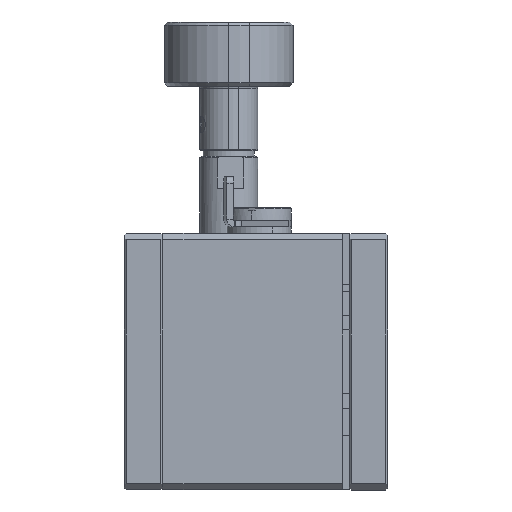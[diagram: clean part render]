
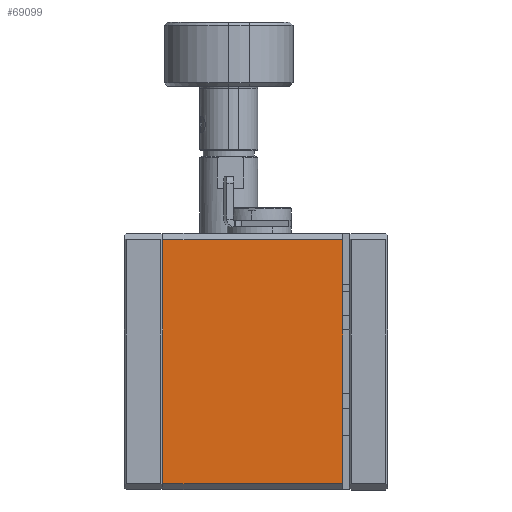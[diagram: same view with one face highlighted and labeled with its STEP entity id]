
A CAD part, left-side view. The second image highlights one B-rep face of the part: STEP entity #69099.
In plain terms, the highlighted planar face has unit normal (-1, 0, 0).
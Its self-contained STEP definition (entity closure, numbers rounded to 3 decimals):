
#1427 = CARTESIAN_POINT ( 'NONE',  ( 23.448, -69.559, -24.936 ) ) ;
#3287 = LINE ( 'NONE', #96412, #22898 ) ;
#4392 = EDGE_CURVE ( 'NONE', #93205, #57660, #60854, .T. ) ;
#12601 = VECTOR ( 'NONE', #27430, 1000. ) ;
#12770 = CARTESIAN_POINT ( 'NONE',  ( 23.448, -69.559, -63.936 ) ) ;
#14932 = EDGE_CURVE ( 'NONE', #100164, #93205, #101275, .T. ) ;
#16555 = VERTEX_POINT ( 'NONE', #42620 ) ;
#19501 = DIRECTION ( 'NONE',  ( 1., 0., 0. ) ) ;
#22898 = VECTOR ( 'NONE', #27876, 1000. ) ;
#27430 = DIRECTION ( 'NONE',  ( 0., 0., -1. ) ) ;
#27876 = DIRECTION ( 'NONE',  ( 0., -1., 0. ) ) ;
#34243 = EDGE_LOOP ( 'NONE', ( #74807, #99623, #40783, #107763 ) ) ;
#35466 = DIRECTION ( 'NONE',  ( 0., 1., 0. ) ) ;
#40783 = ORIENTED_EDGE ( 'NONE', *, *, #102100, .F. ) ;
#42620 = CARTESIAN_POINT ( 'NONE',  ( 23.448, -69.559, -62.936 ) ) ;
#43213 = AXIS2_PLACEMENT_3D ( 'NONE', #12770, #19501, #81370 ) ;
#47328 = FACE_OUTER_BOUND ( 'NONE', #34243, .T. ) ;
#52600 = EDGE_CURVE ( 'NONE', #57660, #16555, #3287, .T. ) ;
#52848 = CARTESIAN_POINT ( 'NONE',  ( 23.448, -69.559, -63.936 ) ) ;
#57660 = VERTEX_POINT ( 'NONE', #86965 ) ;
#60854 = LINE ( 'NONE', #104361, #12601 ) ;
#66395 = VECTOR ( 'NONE', #35466, 1000. ) ;
#69099 = ADVANCED_FACE ( 'NONE', ( #47328 ), #89167, .F. ) ;
#74807 = ORIENTED_EDGE ( 'NONE', *, *, #4392, .T. ) ;
#80575 = CARTESIAN_POINT ( 'NONE',  ( 23.448, -41.559, -24.936 ) ) ;
#81370 = DIRECTION ( 'NONE',  ( 0., 1., 0. ) ) ;
#85262 = LINE ( 'NONE', #52848, #96762 ) ;
#86483 = CARTESIAN_POINT ( 'NONE',  ( 23.448, -69.559, -24.936 ) ) ;
#86889 = DIRECTION ( 'NONE',  ( 0., 0., -1. ) ) ;
#86965 = CARTESIAN_POINT ( 'NONE',  ( 23.448, -41.559, -62.936 ) ) ;
#89167 = PLANE ( 'NONE',  #43213 ) ;
#93205 = VERTEX_POINT ( 'NONE', #80575 ) ;
#96412 = CARTESIAN_POINT ( 'NONE',  ( 23.448, -69.559, -62.936 ) ) ;
#96762 = VECTOR ( 'NONE', #86889, 1000. ) ;
#99623 = ORIENTED_EDGE ( 'NONE', *, *, #52600, .T. ) ;
#100164 = VERTEX_POINT ( 'NONE', #86483 ) ;
#101275 = LINE ( 'NONE', #1427, #66395 ) ;
#102100 = EDGE_CURVE ( 'NONE', #100164, #16555, #85262, .T. ) ;
#104361 = CARTESIAN_POINT ( 'NONE',  ( 23.448, -41.559, -63.936 ) ) ;
#107763 = ORIENTED_EDGE ( 'NONE', *, *, #14932, .T. ) ;
